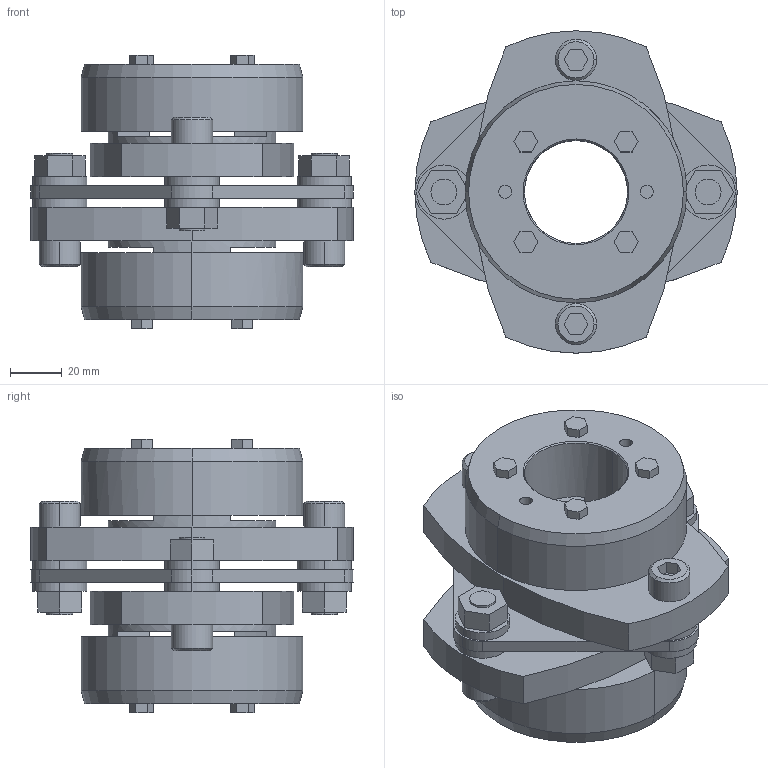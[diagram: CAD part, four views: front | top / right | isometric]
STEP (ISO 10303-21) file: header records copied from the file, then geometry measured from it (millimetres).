
FILE_DESCRIPTION((''),'2;1');
FILE_NAME('LCS-125T7-40×40.stp','2011-09-07T10:02:24',(''),(''),'AutoCAD STEP 2000i','AutoCAD 2000i',', , ');
FILE_SCHEMA(('CONFIG_CONTROL_DESIGN'));
Length unit declared in the file: millimetre
Products named in the file (9): LCS-125T7-40×40; 忣兜1; LC125T7-T040-1; LC125T7-T040; LC125T7-T038; LC125T7-T035; LC125T7-T032-1; LC125T7-T032; LCS125-ITA
Assembly tree (8 placements, depth 2):
  LCS-125T7-40×40
    忣兜1
    LC125T7-T040-1
    LC125T7-T040
    LC125T7-T038
    LC125T7-T035
    LC125T7-T032-1
    LC125T7-T032
    LCS125-ITA
Bounding box: 125 x 125 x 106 mm (x, y, z)
Volume: 495100.8 mm3; surface area: 99498.1 mm2
Topology: 1 solids, 1 shells, 246 faces, 606 edges, 398 vertices
Faces by surface type: plane 146, cylinder 80, cone 20
Entity records: 7527 total; most frequent: DIRECTION 1314, CARTESIAN_POINT 1259, ORIENTED_EDGE 1212, EDGE_CURVE 606, AXIS2_PLACEMENT_3D 453, VECTOR 408, LINE 408, VERTEX_POINT 398
